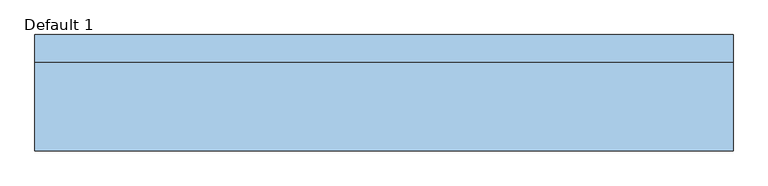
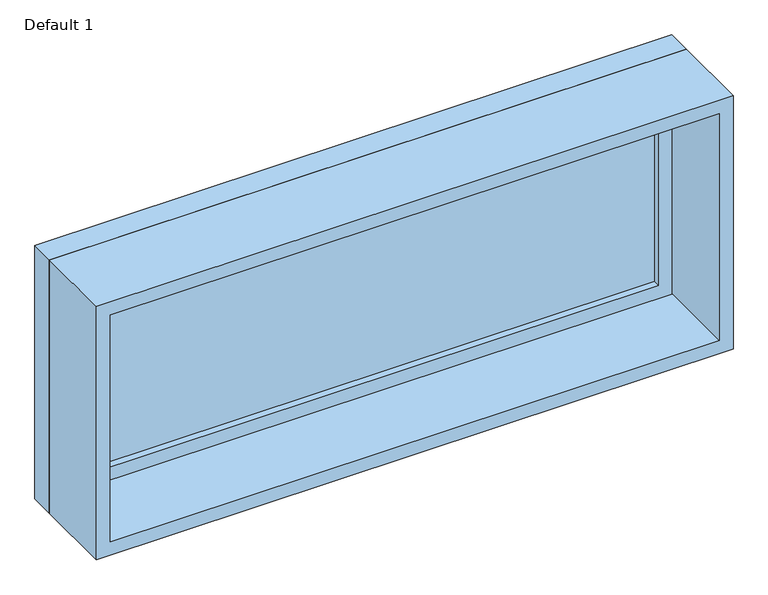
"""IFC4 building model written with IfcOpenShell, lengths in millimetres: window geometry, Planitar-Fixed : Default 1."""

from ifc_helpers import new_model, si_unit, frame, origin, place, context, project, spatial, polyline, outline, extrude, source, transform, mapped, element, save


def default_1_0d0a700f(model_context):
    return source(origin(), model_context, "Body", "SweptSolid", [
        extrude(outline(polyline([(1505.0, -704.9), (933.4, -704.9), (933.4, 704.9), (1505.0, 704.9), (1505.0, -704.9)]), holes=[polyline([(1461.0, -660.9), (1461.0, 660.9), (977.4, 660.9), (977.4, -660.9), (1461.0, -660.9)])]), frame((0.0, 76.95, 0.0), z_axis=(0.0, 1.0, 0.0), x_axis=(0.0, 0.0, 1.0)), (0.0, 0.0, 1.0), 44.0),
        extrude(outline(polyline([(1524.0, -723.9), (914.4, -723.9), (914.4, 723.9), (1524.0, 723.9), (1524.0, -723.9)]), holes=[polyline([(1505.0, -704.9), (1505.0, 704.9), (933.4, 704.9), (933.4, -704.9), (1505.0, -704.9)])]), frame((0.0, 76.95, 0.0), z_axis=(0.0, 1.0, 0.0), x_axis=(0.0, 0.0, 1.0)), (0.0, 0.0, 1.0), 56.7),
        extrude(outline(polyline([(1524.0, -723.9), (914.4, -723.9), (914.4, 723.9), (1524.0, 723.9), (1524.0, -723.9)]), holes=[polyline([(1492.0, -691.9), (1492.0, 691.9), (946.4, 691.9), (946.4, -691.9), (1492.0, -691.9)])]), frame((0.0, -107.65, 0.0), z_axis=(0.0, 1.0, 0.0), x_axis=(0.0, 0.0, 1.0)), (0.0, 0.0, 1.0), 184.6),
        extrude(outline(polyline([(-660.9, 104.95), (660.9, 104.95), (660.9, 92.95), (-660.9, 92.95), (-660.9, 104.95)])), frame((0.0, 0.0, 977.4), z_axis=(0.0, 0.0, 1.0), x_axis=(1.0, 0.0, 0.0)), (0.0, 0.0, 1.0), 483.6),
    ])


if __name__ == "__main__":
    model = new_model("IFC4")
    model_context = context("Model", 3, world=origin())
    ifc_project = project(units=[si_unit("LENGTHUNIT", "METRE", prefix="MILLI")], contexts=[model_context])
    site = spatial("IfcSite", under=ifc_project)
    building = spatial("IfcBuilding", under=site)
    placement = place(None, origin())
    default_1_shape = default_1_0d0a700f(model_context)
    element("IfcWindow", 1, ObjectType="Planitar-Fixed : Default 1", at=placement, inside=building, context=model_context, shape_type="MappedRepresentation", body=[
        mapped(default_1_shape, transform((0.0, 0.0, 0.0), x_axis=(1.0, 0.0, 0.0), y_axis=(0.0, 1.0, 0.0), z_axis=(0.0, 0.0, 1.0))),
    ])
    save(model, "model.ifc")
